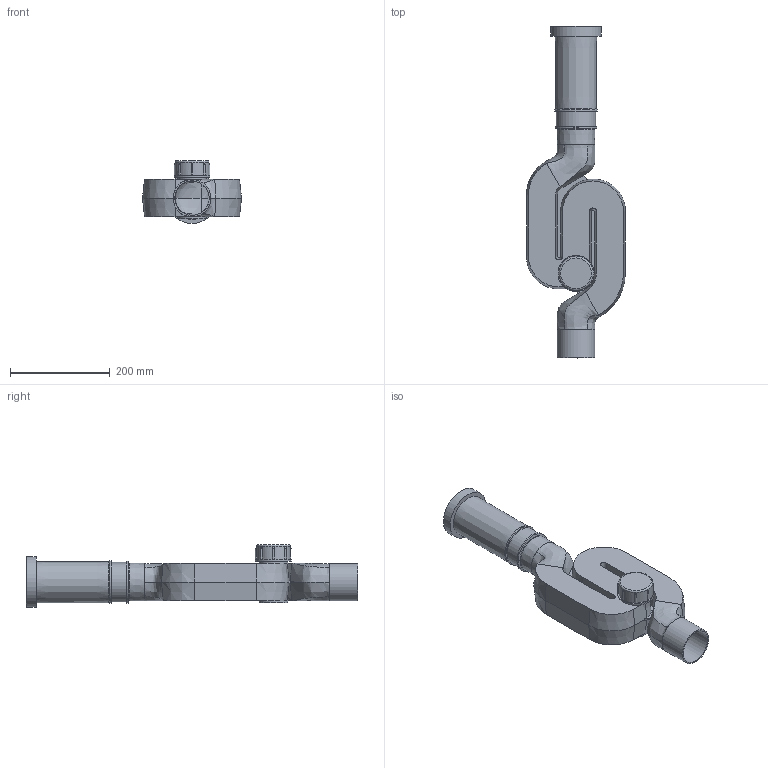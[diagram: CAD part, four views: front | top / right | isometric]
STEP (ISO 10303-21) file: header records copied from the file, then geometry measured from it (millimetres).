
FILE_DESCRIPTION(/* description */ (''),/* implementation_level */ '2;1');
FILE_NAME(/* name */ 'Z:\Geberit\Export\NewStep\365813.stp',/* time_stamp */ '2014-04-02T07:53:23+02:00',/* author */ ('ML'),/* organization */ (''),/* preprocessor_version */ 'ST-DEVELOPER v15.2',/* originating_system */ 'Autodesk Inventor 2014',/* authorisation */ '');
FILE_SCHEMA (('AUTOMOTIVE_DESIGN { 1 0 10303 214 3 1 1 }'));
Length unit declared in the file: millimetre
Products named in the file (8): 853418; 361785; 853.536.16.0.05; 365700; 853526; 853430; 853745; 365813
Bounding box: 198 x 664.05 x 125.61 mm (x, y, z)
Volume: 1172127.6 mm3; surface area: 632622.4 mm2
Topology: 7 solids, 7 shells, 177 faces, 456 edges, 291 vertices
Faces by surface type: plane 66, cone 48, cylinder 29, bspline 24, sphere 8, torus 2
Full cylindrical faces by diameter (mm): 50.9 x1, 57 x1, 57.3 x2, 58 x1, 62 x1, 68 x1, 69 x2, 72 x1, 73 x1, 75 x2, 76.6 x1, 79 x1, 82.6 x1, 84 x1, 85 x1, 94.5 x1, 95.45 x1, 101 x1
Entity records: 13152 total; most frequent: CARTESIAN_POINT 8906, ORIENTED_EDGE 818, DIRECTION 776, EDGE_CURVE 409, AXIS2_PLACEMENT_3D 319, VERTEX_POINT 287, EDGE_LOOP 228, ADVANCED_FACE 177
